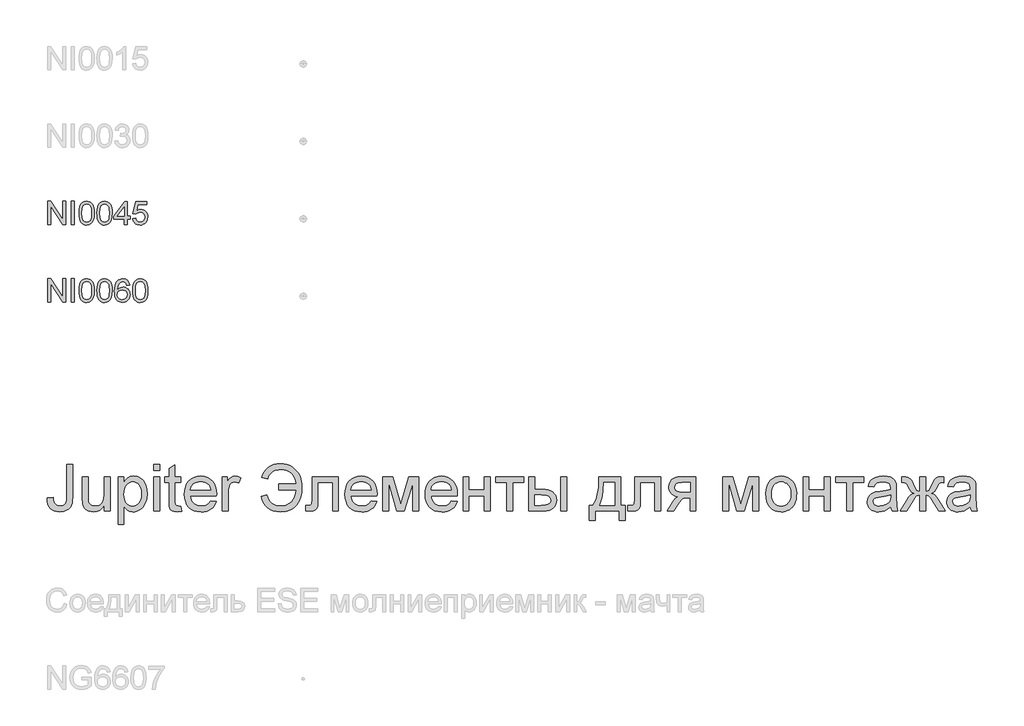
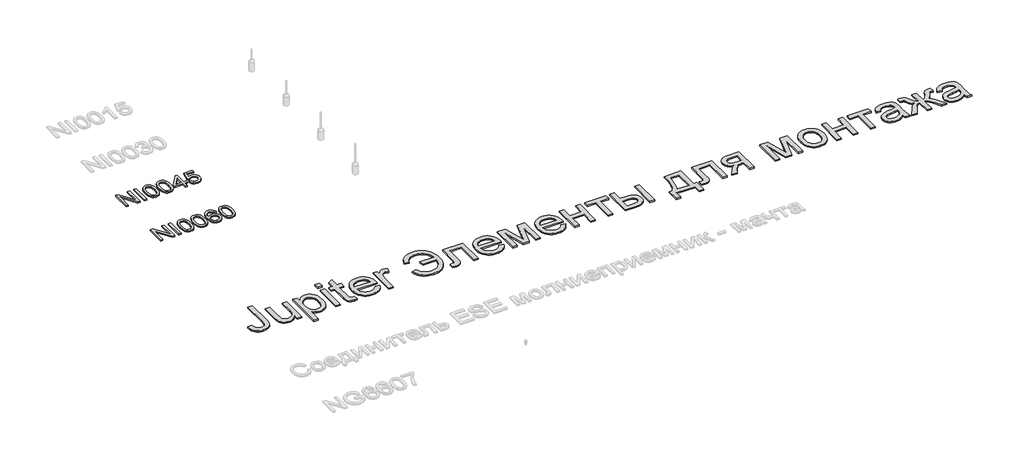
# One storey, part 11 of 124: 3 proxies.
"""IFC4 building model written with IfcOpenShell, lengths in millimetres."""

from ifc_helpers import new_model, si_unit, origin, origin_with_axes, place, context, project, spatial, polyline, outline, extrude, element, save

model = new_model("IFC4")

# Units and contexts
model_context = context("Model", 3, world=origin())
ifc_project = project(units=[si_unit("LENGTHUNIT", "METRE", prefix="MILLI")], contexts=[model_context])

# Site, building, storey
site = spatial("IfcSite", under=ifc_project)
building = spatial("IfcBuilding", under=site)
storey = spatial("IfcBuildingStorey", under=building, Name="Этаж 01", Elevation=0.0)

# Proxies
placement = place(None, origin())
element("IfcBuildingElementProxy", 1, Name="600 мм Arial", ObjectType="600 мм Arial", at=placement, inside=storey, context=model_context, shape_type="SweptSolid", body=[
    extrude(outline(polyline([(25395.1131782, -126079.6474361), (25470.4554108, -126069.9353514), (25473.1133582, -126099.8901429), (25478.2912973, -126124.7129805), (25485.989228, -126144.4038643), (25496.2071504, -126158.9627943), (25508.7887147, -126169.4566282), (25523.5775709, -126176.9522238), (25540.573719, -126181.4495812), (25559.7771592, -126182.9487003), (25587.6074321, -126179.5457919), (25611.3542149, -126169.3370665), (25629.6747383, -126153.2606233), (25641.2262329, -126132.2545614), (25647.3514681, -126101.8491145), (25649.3932132, -126057.5745164), (25649.3932132, -125646.135293), (25724.7354458, -125646.135293), (25724.7354458, -126056.2501412), (25720.1921032, -126123.333423), (25714.5129249, -126150.4601217), (25706.5620753, -126173.3101921), (25696.1418178, -126192.7941422), (25683.0544158, -126209.8224801), (25667.2998693, -126224.3952056), (25648.8781784, -126236.5123188), (25605.9647437, -126252.8462794), (25556.245492, -126258.290933), (25519.1170017, -126255.4812342), (25486.6054304, -126247.052138), (25458.7107781, -126233.0036443), (25435.4330448, -126213.3357532), (25417.1860979, -126188.1220409), (25404.3838044, -126157.436084), (25397.0261645, -126121.2778824), (25395.1131782, -126079.6474361)])), origin_with_axes(), (0.0, 0.0, 1.0), 20.0),
    extrude(outline(polyline([(26129.6999461, -126248.8731539), (26129.6999461, -126172.7951573), (26102.4398903, -126210.1995591), (26070.6916741, -126236.916989), (26034.4552976, -126252.947447), (25993.7307607, -126258.290933), (25957.0345317, -126254.5385366), (25922.8766884, -126243.2813476), (25894.218681, -126226.3587758), (25874.0219595, -126205.6102313), (25860.4287198, -126180.4103146), (25851.5811578, -126150.1336264), (25847.1665738, -126080.0888945), (25847.1665738, -125806.2375373), (25922.5088064, -125806.2375373), (25922.5088064, -126044.6250702), (25923.6492406, -126092.3025767), (25927.0705432, -126121.4388308), (25938.0518207, -126147.0618117), (25956.8689848, -126166.5411634), (25982.2712366, -126178.8468161), (26013.0077773, -126182.9487003), (26045.5101515, -126178.7548456), (26075.9155984, -126166.1732814), (26100.9867564, -126146.3628359), (26117.4862639, -126120.4823376), (26126.6465256, -126085.0369073), (26129.6999461, -126036.5316663), (26129.6999461, -125806.2375373), (26205.0421787, -125806.2375373), (26205.0421787, -126248.8731539), (26129.6999461, -126248.8731539)])), origin_with_axes(), (0.0, 0.0, 1.0), 20.0),
    extrude(outline(polyline([(26308.6377486, -126418.3931773), (26308.6377486, -125806.2375373), (26383.9799812, -125806.2375373), (26383.9799812, -125880.1082419), (26408.5544985, -125843.6695303), (26436.0720717, -125817.6418791), (26468.1513817, -125802.0252884), (26506.4111092, -125796.8197582), (26532.6870807, -125798.6407741), (26557.3627655, -125804.1038217), (26580.4381637, -125813.2089011), (26601.9132751, -125825.9560122), (26621.3190504, -125842.0140613), (26638.1864399, -125861.0519546), (26652.5154436, -125883.069692), (26664.3060615, -125908.0672736), (26680.0881991, -125963.5806666), (26685.3489116, -126024.1708312), (26679.4076174, -126088.6053627), (26671.9809996, -126118.2704471), (26661.5837348, -126146.2340772), (26648.358377, -126171.7650877), (26632.4474807, -126194.132313), (26613.8510459, -126213.3357532), (26592.5690725, -126229.3754081), (26569.6454256, -126242.0259503), (26546.1239706, -126251.0620518), (26522.0047073, -126256.4837127), (26497.2876357, -126258.290933), (26462.6515459, -126253.4532847), (26431.7310642, -126238.94034), (26405.2619546, -126217.0329672), (26383.9799812, -126190.0120347), (26383.9799812, -126418.3931773), (26308.6377486, -126418.3931773)]), holes=[polyline([(26383.9799812, -126031.0870127), (26386.0171277, -126067.3969657), (26392.1285674, -126098.6301471), (26402.3143001, -126124.7865569), (26416.574326, -126145.8661952), (26433.7406196, -126162.0897912), (26452.6451556, -126173.6780741), (26473.287934, -126180.6310438), (26495.6689549, -126182.9487003), (26518.3718726, -126180.5482703), (26539.3917301, -126173.3469803), (26558.7285274, -126161.3448302), (26576.3822647, -126144.5418201), (26591.092946, -126122.6988266), (26601.6005754, -126095.5767265), (26607.9051531, -126063.1755198), (26610.006679, -126025.4952064), (26607.9557369, -125989.4979532), (26601.8029105, -125958.3199541), (26591.5481999, -125931.9612091), (26577.1916051, -125910.4217183), (26559.9839247, -125893.6830875), (26541.1759577, -125881.7269227), (26520.767704, -125874.5532238), (26498.7591637, -125872.1619908), (26476.8196012, -125874.7049751), (26456.1768227, -125882.333928), (26436.8308283, -125895.0488494), (26418.7816179, -125912.8497395), (26403.5559019, -125935.4974748), (26392.6803904, -125962.7529321), (26386.1550835, -125994.6161114), (26383.9799812, -126031.0870127)])]), origin_with_axes(), (0.0, 0.0, 1.0), 20.0),
    extrude(outline(polyline([(26770.1089233, -125721.4775256), (26770.1089233, -125646.135293), (26845.4511559, -125646.135293), (26845.4511559, -125721.4775256), (26770.1089233, -125721.4775256)])), origin_with_axes(), (0.0, 0.0, 1.0), 20.0),
    extrude(outline(polyline([(26770.1089233, -126248.8731539), (26770.1089233, -125806.2375373), (26845.4511559, -125806.2375373), (26845.4511559, -126248.8731539), (26770.1089233, -126248.8731539)])), origin_with_axes(), (0.0, 0.0, 1.0), 20.0),
    extrude(outline(polyline([(27118.5667492, -126186.0389091), (27127.9845282, -126251.0804459), (27071.6250066, -126258.290933), (27035.4622064, -126255.163936), (27008.4964562, -126245.7829451), (26989.4401689, -126231.3251827), (26977.0057574, -126212.9678712), (26970.1631523, -126181.4403842), (26967.8822839, -126127.4720955), (26967.8822839, -125881.5797699), (26911.3756095, -125881.5797699), (26911.3756095, -125806.2375373), (26967.8822839, -125806.2375373), (26967.8822839, -125698.6688419), (27043.2245165, -125654.3758497), (27043.2245165, -125806.2375373), (27118.5667492, -125806.2375373), (27118.5667492, -125881.5797699), (27043.2245165, -125881.5797699), (27043.2245165, -126125.2648035), (27047.1976421, -126164.1131422), (27060.0735119, -126177.8719288), (27070.9444249, -126181.6795075), (27085.7516752, -126182.9487003), (27118.5667492, -126186.0389091)])), origin_with_axes(), (0.0, 0.0, 1.0), 20.0),
    extrude(outline(polyline([(27503.8127745, -126117.0242468), (27577.6834791, -126126.4420259), (27566.3573122, -126156.0289354), (27551.0672168, -126182.1025718), (27531.8131929, -126204.6629351), (27508.5952404, -126223.7100254), (27481.6524828, -126238.8391725), (27451.2240433, -126249.6457061), (27417.3099219, -126256.1296262), (27379.9101185, -126258.290933), (27333.161514, -126254.5615292), (27291.5080751, -126243.3733181), (27254.9498018, -126224.7262994), (27223.4866942, -126198.6204733), (27198.18561, -126165.7824068), (27180.113407, -126126.9386666), (27169.2700851, -126082.0892528), (27165.6556445, -126031.2341655), (27169.3068733, -125978.6546314), (27180.2605598, -125932.310697), (27198.5167038, -125892.2023625), (27224.0753054, -125858.3296278), (27255.4556396, -125831.4190599), (27291.1769813, -125812.1972256), (27331.2393306, -125800.6641251), (27375.6426874, -125796.8197582), (27418.615903, -125800.654928), (27457.4780372, -125812.1604374), (27492.2290902, -125831.3362864), (27522.8690619, -125858.182475), (27547.880439, -125891.9816333), (27565.7457084, -125932.0163914), (27576.46487, -125978.2867494), (27580.0379239, -126030.7927071), (27579.5964655, -126051.0997933), (27240.9978772, -126051.0997933), (27245.3618773, -126081.1649493), (27254.0392939, -126107.4961031), (27267.0301268, -126130.0932547), (27284.3343762, -126148.956404), (27304.9955487, -126163.8280337), (27328.0571513, -126174.4506263), (27353.5191839, -126180.8241818), (27381.3816465, -126182.9487003), (27421.480784, -126179.012363), (27455.2523511, -126167.203351), (27482.696348, -126146.7859002), (27503.8127745, -126117.0242468)]), holes=[polyline([(27240.9978772, -125975.7575607), (27504.6956913, -125975.7575607), (27494.50536, -125935.9527288), (27485.7405715, -125920.2993499), (27474.5293677, -125907.4786624), (27453.9831583, -125892.0276186), (27430.6042575, -125880.9911587), (27404.3926653, -125874.3692828), (27375.3483818, -125872.1619908), (27348.8562796, -125873.9232259), (27324.5622724, -125879.206931), (27302.46636, -125888.0131063), (27282.5685426, -125900.3417517), (27265.8712986, -125915.62265), (27253.3771063, -125933.2855843), (27245.0859658, -125953.3305545), (27240.9978772, -125975.7575607)])]), origin_with_axes(), (0.0, 0.0, 1.0), 20.0),
    extrude(outline(polyline([(27655.3801565, -126248.8731539), (27655.3801565, -125806.2375373), (27721.3046101, -125806.2375373), (27721.3046101, -125871.7205324), (27745.6583981, -125833.7551105), (27768.0991998, -125811.3878852), (27790.6135779, -125800.46179), (27815.1880952, -125796.8197582), (27852.7120587, -125802.6322937), (27890.8246334, -125820.0699003), (27865.661505, -125887.6130346), (27839.1740013, -125876.0247518), (27812.6864977, -125872.1619908), (27790.1905137, -125875.877599), (27770.0857626, -125887.0244234), (27753.8437725, -125904.7563356), (27742.9360714, -125928.2272069), (27733.7758097, -125970.3129071), (27730.7223891, -126016.2245801), (27730.7223891, -126248.8731539), (27655.3801565, -126248.8731539)])), origin_with_axes(), (0.0, 0.0, 1.0), 20.0),
    extrude(outline(polyline([(28380.5491454, -125900.4153281), (28606.5758433, -125900.4153281), (28601.177175, -125859.3183107), (28589.9843653, -125822.7002566), (28572.9974141, -125790.5611658), (28550.2163216, -125762.9010383), (28522.0917431, -125740.6579731), (28489.074334, -125724.7700695), (28451.1640944, -125715.2373273), (28408.3610242, -125712.0597465), (28376.3943781, -125713.9727329), (28347.5225393, -125719.711692), (28321.7455077, -125729.2766239), (28299.0632835, -125742.6675285), (28279.4758665, -125759.8844059), (28262.9832568, -125780.927256), (28249.5854544, -125805.7960789), (28239.2824593, -125834.4908745), (28163.9402267, -125815.6553164), (28177.5150723, -125775.8688786), (28196.1666894, -125740.6809657), (28219.8950781, -125710.0915778), (28248.7002383, -125684.1007149), (28281.9475737, -125663.3705645), (28319.0024876, -125648.5633142), (28359.8649802, -125639.678964), (28404.5350515, -125636.7175139), (28447.1449836, -125639.4352422), (28486.683101, -125647.5884269), (28523.1494038, -125661.1770681), (28556.5438919, -125680.2011657), (28586.346932, -125703.4513078), (28612.0388909, -125729.7180823), (28633.6197684, -125759.0014891), (28651.0895647, -125791.3015283), (28664.5770383, -125826.006596), (28674.2109481, -125862.5050885), (28679.9912939, -125900.7970056), (28681.9180759, -125940.8823475), (28679.5728281, -126005.3214775), (28667.9753482, -126064.4355156), (28647.1256362, -126118.2244618), (28617.0236919, -126166.6883162), (28598.5215268, -126188.1576795), (28577.7430919, -126206.764461), (28554.6883871, -126222.5086608), (28529.3574125, -126235.3902788), (28501.750168, -126245.409315), (28471.8666537, -126252.5657694), (28405.2708155, -126258.290933), (28357.8968116, -126255.2007242), (28315.1029385, -126245.9300979), (28276.8891962, -126230.4790541), (28243.2555848, -126208.8475928), (28214.2021042, -126181.035714), (28189.7287545, -126147.0434176), (28169.8355356, -126106.8707037), (28154.5224476, -126060.5175724), (28229.8646802, -126041.6820142), (28240.8827459, -126074.7913938), (28255.3221143, -126103.4861894), (28273.1827851, -126127.7664011), (28294.4647585, -126147.6320288), (28319.1680345, -126163.0830726), (28347.2926131, -126174.1195325), (28378.8384941, -126180.7414084), (28413.8056778, -126182.9487003), (28453.2242336, -126179.4814125), (28488.9271812, -126169.0795491), (28520.9145207, -126151.7431101), (28549.186252, -126127.4720955), (28572.5835469, -126097.1862102), (28589.9475771, -126061.8051593), (28601.2783425, -126021.3289428), (28606.5758433, -125975.7575607), (28380.5491454, -125975.7575607), (28380.5491454, -125900.4153281)])), origin_with_axes(), (0.0, 0.0, 1.0), 20.0),
    extrude(outline(polyline([(28813.7669829, -125806.2375373), (29152.8070297, -125806.2375373), (29152.8070297, -126248.4316955), (29077.4647971, -126248.4316955), (29077.4647971, -125881.5797699), (28889.1092155, -125881.5797699), (28889.1092155, -126092.7440351), (28887.8400227, -126154.0331755), (28884.032444, -126190.1591875), (28874.5226944, -126212.2137131), (28856.1469888, -126231.2883945), (28828.2615335, -126244.476964), (28790.2225352, -126248.8731539), (28729.0069712, -126245.0471811), (28729.0069712, -126173.5309213), (28762.704962, -126173.5309213), (28783.1408068, -126172.372093), (28796.7708348, -126168.8956081), (28805.2873029, -126162.8991316), (28810.3824686, -126154.1803283), (28813.7669829, -126088.476604), (28813.7669829, -125806.2375373)])), origin_with_axes(), (0.0, 0.0, 1.0), 20.0),
    extrude(outline(polyline([(29575.7241713, -126117.0242468), (29649.594876, -126126.4420259), (29638.268709, -126156.0289354), (29622.9786136, -126182.1025718), (29603.7245897, -126204.6629351), (29580.5066373, -126223.7100254), (29553.5638797, -126238.8391725), (29523.1354401, -126249.6457061), (29489.2213187, -126256.1296262), (29451.8215154, -126258.290933), (29405.0729108, -126254.5615292), (29363.4194719, -126243.3733181), (29326.8611987, -126224.7262994), (29295.398091, -126198.6204733), (29270.0970068, -126165.7824068), (29252.0248038, -126126.9386666), (29241.181482, -126082.0892528), (29237.5670414, -126031.2341655), (29241.2182702, -125978.6546314), (29252.1719566, -125932.310697), (29270.4281006, -125892.2023625), (29295.9867022, -125858.3296278), (29327.3670364, -125831.4190599), (29363.0883781, -125812.1972256), (29403.1507274, -125800.6641251), (29447.5540842, -125796.8197582), (29490.5272998, -125800.654928), (29529.3894341, -125812.1604374), (29564.140487, -125831.3362864), (29594.7804587, -125858.182475), (29619.7918358, -125891.9816333), (29637.6571052, -125932.0163914), (29648.3762669, -125978.2867494), (29651.9493207, -126030.7927071), (29651.5078624, -126051.0997933), (29312.909274, -126051.0997933), (29317.2732742, -126081.1649493), (29325.9506907, -126107.4961031), (29338.9415237, -126130.0932547), (29356.245773, -126148.956404), (29376.9069456, -126163.8280337), (29399.9685481, -126174.4506263), (29425.4305807, -126180.8241818), (29453.2930433, -126182.9487003), (29493.3921808, -126179.012363), (29527.163748, -126167.203351), (29554.6077448, -126146.7859002), (29575.7241713, -126117.0242468)]), holes=[polyline([(29312.909274, -125975.7575607), (29576.6070881, -125975.7575607), (29566.4167569, -125935.9527288), (29557.6519683, -125920.2993499), (29546.4407645, -125907.4786624), (29525.8945551, -125892.0276186), (29502.5156543, -125880.9911587), (29476.3040621, -125874.3692828), (29447.2597786, -125872.1619908), (29420.7676765, -125873.9232259), (29396.4736692, -125879.206931), (29374.3777569, -125888.0131063), (29354.4799394, -125900.3417517), (29337.7826954, -125915.62265), (29325.2885031, -125933.2855843), (29316.9973627, -125953.3305545), (29312.909274, -125975.7575607)])]), origin_with_axes(), (0.0, 0.0, 1.0), 20.0),
    extrude(outline(polyline([(29727.2915534, -125806.2375373), (29856.9331685, -125806.2375373), (29956.8499183, -126160.581475), (30064.5657665, -125806.2375373), (30188.7627281, -125806.2375373), (30188.7627281, -126248.8731539), (30113.4204955, -126248.8731539), (30113.4204955, -125892.469077), (30005.1160361, -126248.8731539), (29906.2293558, -126248.8731539), (29802.633786, -125875.3993524), (29802.633786, -126248.8731539), (29727.2915534, -126248.8731539), (29727.2915534, -125806.2375373)])), origin_with_axes(), (0.0, 0.0, 1.0), 20.0),
    extrude(outline(polyline([(30611.6798698, -126117.0242468), (30685.5505744, -126126.4420259), (30674.2244075, -126156.0289354), (30658.934312, -126182.1025718), (30639.6802881, -126204.6629351), (30616.4623357, -126223.7100254), (30589.5195781, -126238.8391725), (30559.0911386, -126249.6457061), (30525.1770171, -126256.1296262), (30487.7772138, -126258.290933), (30441.0286092, -126254.5615292), (30399.3751703, -126243.3733181), (30362.8168971, -126224.7262994), (30331.3537894, -126198.6204733), (30306.0527052, -126165.7824068), (30287.9805022, -126126.9386666), (30277.1371804, -126082.0892528), (30273.5227398, -126031.2341655), (30277.1739686, -125978.6546314), (30288.127655, -125932.310697), (30306.383799, -125892.2023625), (30331.9424006, -125858.3296278), (30363.3227348, -125831.4190599), (30399.0440766, -125812.1972256), (30439.1064258, -125800.6641251), (30483.5097826, -125796.8197582), (30526.4829982, -125800.654928), (30565.3451325, -125812.1604374), (30600.0961854, -125831.3362864), (30630.7361571, -125858.182475), (30655.7475343, -125891.9816333), (30673.6128037, -125932.0163914), (30684.3319653, -125978.2867494), (30687.9050192, -126030.7927071), (30687.4635608, -126051.0997933), (30348.8649724, -126051.0997933), (30353.2289726, -126081.1649493), (30361.9063891, -126107.4961031), (30374.8972221, -126130.0932547), (30392.2014714, -126148.956404), (30412.862644, -126163.8280337), (30435.9242466, -126174.4506263), (30461.3862792, -126180.8241818), (30489.2487418, -126182.9487003), (30529.3478792, -126179.012363), (30563.1194464, -126167.203351), (30590.5634432, -126146.7859002), (30611.6798698, -126117.0242468)]), holes=[polyline([(30348.8649724, -125975.7575607), (30612.5627866, -125975.7575607), (30602.3724553, -125935.9527288), (30593.6076667, -125920.2993499), (30582.3964629, -125907.4786624), (30561.8502535, -125892.0276186), (30538.4713527, -125880.9911587), (30512.2597606, -125874.3692828), (30483.215477, -125872.1619908), (30456.7233749, -125873.9232259), (30432.4293676, -125879.206931), (30410.3334553, -125888.0131063), (30390.4356379, -125900.3417517), (30373.7383938, -125915.62265), (30361.2442015, -125933.2855843), (30352.9530611, -125953.3305545), (30348.8649724, -125975.7575607)])]), origin_with_axes(), (0.0, 0.0, 1.0), 20.0),
    extrude(outline(polyline([(30763.2472518, -125806.2375373), (30838.5894844, -125806.2375373), (30838.5894844, -125975.7575607), (31036.362845, -125975.7575607), (31036.362845, -125806.2375373), (31111.7050776, -125806.2375373), (31111.7050776, -126248.8731539), (31036.362845, -126248.8731539), (31036.362845, -126051.0997933), (30838.5894844, -126051.0997933), (30838.5894844, -126248.8731539), (30763.2472518, -126248.8731539), (30763.2472518, -125806.2375373)])), origin_with_axes(), (0.0, 0.0, 1.0), 20.0),
    extrude(outline(polyline([(31187.0473102, -125806.2375373), (31544.9229151, -125806.2375373), (31544.9229151, -125881.5797699), (31403.656229, -125881.5797699), (31403.656229, -126248.8731539), (31328.3139964, -126248.8731539), (31328.3139964, -125881.5797699), (31187.0473102, -125881.5797699), (31187.0473102, -125806.2375373)])), origin_with_axes(), (0.0, 0.0, 1.0), 20.0),
    extrude(outline(polyline([(32025.229648, -125806.2375373), (32100.5718806, -125806.2375373), (32100.5718806, -126248.8731539), (32025.229648, -126248.8731539), (32025.229648, -125806.2375373)])), origin_with_axes(), (0.0, 0.0, 1.0), 20.0),
    extrude(outline(polyline([(31610.8473687, -125806.2375373), (31686.1896013, -125806.2375373), (31686.1896013, -125966.3397816), (31779.3373225, -125966.3397816), (31822.2001734, -125968.6988249), (31859.8482971, -125975.7759548), (31892.2816935, -125987.5711712), (31919.5003626, -126004.0844743), (31941.0352549, -126024.7456468), (31956.4173208, -126048.9844718), (31965.6465604, -126076.8009492), (31968.7229736, -126108.1950789), (31966.1432011, -126136.2046943), (31958.4038836, -126162.1081853), (31945.5050211, -126185.9055519), (31927.4466137, -126207.596794), (31903.7228235, -126225.6552015), (31873.8278129, -126238.5540639), (31837.7615818, -126246.2933814), (31795.5241302, -126248.8731539), (31610.8473687, -126248.8731539), (31610.8473687, -125806.2375373)]), holes=[polyline([(31686.1896013, -126173.5309213), (31763.5919731, -126173.5309213), (31823.5935265, -126169.5761898), (31846.0619193, -126164.6327755), (31863.5087229, -126157.7119955), (31876.5777308, -126148.6942881), (31885.9127365, -126137.4600916), (31891.5137398, -126124.0094062), (31893.380741, -126108.3422317), (31887.8441169, -126083.7309263), (31871.2342448, -126061.9891003), (31856.8178692, -126053.1047502), (31835.7152382, -126046.7587857), (31773.4512105, -126041.6820142), (31686.1896013, -126041.6820142), (31686.1896013, -126173.5309213)])]), origin_with_axes(), (0.0, 0.0, 1.0), 20.0),
    extrude(outline(polyline([(32514.95416, -125806.2375373), (32797.4875323, -125806.2375373), (32797.4875323, -126173.5309213), (32853.9942068, -126173.5309213), (32853.9942068, -126371.3042819), (32778.6519742, -126371.3042819), (32778.6519742, -126248.8731539), (32467.8652646, -126248.8731539), (32467.8652646, -126371.3042819), (32392.523032, -126371.3042819), (32392.523032, -126173.5309213), (32439.6119274, -126173.5309213), (32458.0106257, -126145.0982416), (32473.843347, -126111.6715638), (32487.1100915, -126073.2508879), (32497.810859, -126029.836214), (32505.9456497, -125981.4275419), (32511.5144634, -125928.0248718), (32514.95416, -125806.2375373)]), holes=[polyline([(32580.8786135, -125881.5797699), (32574.698196, -125973.8261802), (32563.2202778, -126053.2335089), (32546.4448588, -126119.8017559), (32524.3719391, -126173.5309213), (32722.1452997, -126173.5309213), (32722.1452997, -125881.5797699), (32580.8786135, -125881.5797699)])]), origin_with_axes(), (0.0, 0.0, 1.0), 20.0),
    extrude(outline(polyline([(32976.4253348, -125806.2375373), (33315.4653815, -125806.2375373), (33315.4653815, -126248.4316955), (33240.1231489, -126248.4316955), (33240.1231489, -125881.5797699), (33051.7675674, -125881.5797699), (33051.7675674, -126092.7440351), (33050.4983745, -126154.0331755), (33046.6907958, -126190.1591875), (33037.1810463, -126212.2137131), (33018.8053406, -126231.2883945), (32990.9198854, -126244.476964), (32952.8808871, -126248.8731539), (32891.6653231, -126245.0471811), (32891.6653231, -126173.5309213), (32925.3633138, -126173.5309213), (32945.7991587, -126172.372093), (32959.4291866, -126168.8956081), (32967.9456548, -126162.8991316), (32973.0408204, -126154.1803283), (32976.4253348, -126088.476604), (32976.4253348, -125806.2375373)])), origin_with_axes(), (0.0, 0.0, 1.0), 20.0),
    extrude(outline(polyline([(33767.5187772, -125806.2375373), (33767.5187772, -126248.8731539), (33692.1765446, -126248.8731539), (33692.1765446, -126079.3531305), (33651.1209139, -126079.3531305), (33618.3794163, -126081.7443635), (33595.2028506, -126088.9180624), (33572.8724135, -126109.7769715), (33542.6693017, -126153.2238351), (33482.6309601, -126248.8731539), (33395.5165037, -126248.8731539), (33471.1530419, -126127.9135539), (33504.556727, -126084.5034784), (33520.2652882, -126071.8483378), (33535.3116618, -126065.2264619), (33507.6469358, -126059.1104237), (33483.8081825, -126049.4443243), (33463.795402, -126036.2281636), (33447.6085942, -126019.4619417), (33435.1190004, -126000.2217133), (33426.1978621, -125979.5835334), (33420.845179, -125957.5474019), (33419.0609514, -125934.1133188), (33421.4981696, -125906.9820217), (33428.8098242, -125882.5362631), (33440.9959153, -125860.7760431), (33458.0564428, -125841.7013616), (33479.7338894, -125826.1859385), (33505.7707376, -125815.1034934), (33536.1669875, -125808.4540263), (33570.922639, -125806.2375373), (33767.5187772, -125806.2375373)]), holes=[polyline([(33692.1765446, -125881.5797699), (33592.8484059, -125881.5797699), (33541.5472616, -125885.9391715), (33524.2154212, -125891.3884236), (33512.4294017, -125899.0173765), (33498.9097384, -125917.9449051), (33494.403184, -125939.8522779), (33496.0632515, -125955.3079203), (33501.043454, -125968.5654677), (33509.3437915, -125979.6249201), (33520.964264, -125988.4862777), (33536.8061824, -125995.278299), (33557.7708576, -126000.1297428), (33615.0684784, -126004.0108979), (33692.1765446, -126004.0108979), (33692.1765446, -125881.5797699)])]), origin_with_axes(), (0.0, 0.0, 1.0), 20.0),
    extrude(outline(polyline([(34115.976603, -125806.2375373), (34245.6182181, -125806.2375373), (34345.534968, -126160.581475), (34453.2508162, -125806.2375373), (34577.4477778, -125806.2375373), (34577.4477778, -126248.8731539), (34502.1055452, -126248.8731539), (34502.1055452, -125892.469077), (34393.8010858, -126248.8731539), (34294.9144055, -126248.8731539), (34191.3188356, -125875.3993524), (34191.3188356, -126248.8731539), (34115.976603, -126248.8731539), (34115.976603, -125806.2375373)])), origin_with_axes(), (0.0, 0.0, 1.0), 20.0),
    extrude(outline(polyline([(34671.6255685, -126027.5553456), (34675.6998616, -125970.2301337), (34687.9227409, -125920.8327788), (34708.2942064, -125879.3632809), (34736.8142581, -125845.82164), (34765.5274478, -125824.3833167), (34797.2204817, -125809.0702287), (34831.8933597, -125799.8823758), (34869.5460819, -125796.8197582), (34911.1121489, -125800.5491619), (34948.6958932, -125811.7373731), (34982.2973149, -125830.3843917), (35011.9164141, -125856.4902178), (35036.0908597, -125889.1719346), (35053.3583208, -125927.5466252), (35063.7187975, -125971.6142897), (35067.1722897, -126021.3749281), (35065.6455795, -126061.7039918), (35061.0654486, -126097.4897129), (35053.4318972, -126128.7320913), (35042.7449253, -126155.4311271), (35029.13789, -126178.4927297), (35012.7441486, -126198.8228084), (34993.563701, -126216.4213634), (34971.5965474, -126231.2883945), (34947.6980133, -126243.1020051), (34922.7234243, -126251.5402984), (34896.6727806, -126256.6032743), (34869.5460819, -126258.290933), (34827.3730097, -126254.5753248), (34789.4397775, -126243.4285004), (34755.7463853, -126224.8504596), (34726.292833, -126198.8412025), (34702.3759048, -126165.8421876), (34685.2923847, -126126.2948731), (34675.0422726, -126080.1992591), (34671.6255685, -126027.5553456)]), holes=[polyline([(34746.9678011, -126027.4081928), (34749.147502, -126063.9526705), (34755.6866044, -126095.5951206), (34766.5851085, -126122.3355431), (34781.8430143, -126144.1739381), (34800.4026609, -126161.1378966), (34821.2063878, -126173.2550098), (34844.2541948, -126180.5252777), (34869.5460819, -126182.9487003), (34894.7092104, -126180.5114821), (34917.6650469, -126173.1998275), (34938.4135914, -126161.0137364), (34956.954844, -126143.9532089), (34972.2127497, -126121.8986833), (34983.1112538, -126094.7305979), (34989.6503563, -126062.4489528), (34991.8300571, -126025.053748), (34989.6365607, -125989.6680986), (34983.0560716, -125958.853383), (34972.0885896, -125932.6096012), (34956.7341148, -125910.9367531), (34938.1238844, -125893.9727946), (34917.3891354, -125881.8556814), (34894.5298679, -125874.5854135), (34869.5460819, -125872.1619908), (34844.2541948, -125874.5762164), (34821.2063878, -125881.8188932), (34800.4026609, -125893.8900212), (34781.8430143, -125910.7896003), (34766.5851085, -125932.5636159), (34755.6866044, -125959.2580532), (34749.147502, -125990.8729121), (34746.9678011, -126027.4081928)])]), origin_with_axes(), (0.0, 0.0, 1.0), 20.0),
    extrude(outline(polyline([(35151.9323014, -125806.2375373), (35227.274534, -125806.2375373), (35227.274534, -125975.7575607), (35425.0478947, -125975.7575607), (35425.0478947, -125806.2375373), (35500.3901273, -125806.2375373), (35500.3901273, -126248.8731539), (35425.0478947, -126248.8731539), (35425.0478947, -126051.0997933), (35227.274534, -126051.0997933), (35227.274534, -126248.8731539), (35151.9323014, -126248.8731539), (35151.9323014, -125806.2375373)])), origin_with_axes(), (0.0, 0.0, 1.0), 20.0),
    extrude(outline(polyline([(35575.7323599, -125806.2375373), (35933.6079648, -125806.2375373), (35933.6079648, -125881.5797699), (35792.3412786, -125881.5797699), (35792.3412786, -126248.8731539), (35716.999046, -126248.8731539), (35716.999046, -125881.5797699), (35575.7323599, -125881.5797699), (35575.7323599, -125806.2375373)])), origin_with_axes(), (0.0, 0.0, 1.0), 20.0),
    extrude(outline(polyline([(36282.0657906, -126192.3664794), (36246.0685374, -126223.2317788), (36209.0044264, -126243.4285004), (36170.027329, -126254.5753248), (36128.2911166, -126258.290933), (36094.7448772, -126256.0560498), (36065.3281132, -126249.3514005), (36040.0408245, -126238.1769849), (36018.8830113, -126222.532803), (36002.1765702, -126203.4121363), (35990.2433979, -126181.8082662), (35983.0834946, -126157.7211925), (35980.6968602, -126131.1509154), (35984.3021037, -126099.917734), (35995.1178344, -126071.5540322), (36011.8012829, -126047.2738205), (36033.0096799, -126028.2911096), (36057.9336851, -126013.9437118), (36085.763958, -126003.5694395), (36150.9526475, -125992.2386741), (36227.9871373, -125980.3192974), (36281.6243322, -125966.3397816), (36282.0657906, -125949.5643626), (36276.8786545, -125915.9399483), (36270.3947343, -125903.4871427), (36261.3172461, -125893.9406049), (36245.627079, -125884.4124613), (36226.5156093, -125877.6066444), (36178.0287624, -125872.1619908), (36133.147159, -125875.7856285), (36101.803613, -125886.6565414), (36080.4296691, -125906.7612925), (36065.4568719, -125938.0864444), (35990.1146392, -125928.6686653), (36003.1928442, -125887.4658818), (36022.708984, -125855.0922662), (36050.4840747, -125830.333808), (36088.339132, -125811.9764964), (36134.6370811, -125800.6089428), (36187.7408471, -125796.8197582), (36238.6741093, -125800.1674844), (36279.0491583, -125810.2106628), (36309.4913934, -125825.3122187), (36330.626214, -125843.8350772), (36344.642518, -125866.7357314), (36353.7292033, -125894.9706745), (36357.4080232, -125960.8951281), (36357.4080232, -126054.6314604), (36361.233996, -126185.5238743), (36366.8993787, -126217.8790958), (36376.2435814, -126248.8731539), (36300.9013488, -126248.8731539), (36288.8348193, -126222.6799558), (36282.0657906, -126192.3664794)]), holes=[polyline([(36282.0657906, -126041.6820142), (36231.4452281, -126054.2267902), (36160.5175794, -126064.7850035), (36095.6967719, -126076.9986857), (36078.8293824, -126085.349607), (36066.3397886, -126096.8643135), (36058.6142667, -126110.6598883), (36056.0390928, -126125.8534147), (36061.6492932, -126148.2574282), (36078.4798945, -126166.6147398), (36106.1630146, -126178.8652102), (36144.3307716, -126182.9487003), (36184.7977911, -126178.4421459), (36220.555921, -126164.9224826), (36249.5450222, -126145.0016725), (36269.7049556, -126121.291678), (36278.6444881, -126096.8643135), (36281.6243322, -126063.0191699), (36282.0657906, -126041.6820142)])]), origin_with_axes(), (0.0, 0.0, 1.0), 20.0),
    extrude(outline(polyline([(36734.1191863, -125806.2375373), (36734.1191863, -125994.5931188), (36760.6986604, -125990.7119638), (36778.0442965, -125979.0684986), (36794.8013214, -125951.1646493), (36819.614962, -125898.5023417), (36845.5506426, -125848.2864493), (36857.6631573, -125831.8697153), (36869.2054549, -125821.2471227), (36897.9370387, -125809.9899336), (36939.6916452, -125806.2375373), (36969.5636632, -125806.2375373), (36969.5636632, -125882.0212283), (36948.8151187, -125881.5797699), (36923.9462958, -125883.5295445), (36909.96678, -125889.3788682), (36898.8199555, -125905.7128288), (36883.0378179, -125938.2335972), (36866.7590397, -125970.9750947), (36851.7678484, -125991.7972157), (36833.4289309, -126006.0342489), (36807.1069741, -126019.0204833), (36831.8930236, -126029.6246818), (36856.3663733, -126048.3406783), (36880.5270233, -126075.1684728), (36904.3749737, -126110.1080653), (36988.3992214, -126248.8731539), (36902.0205289, -126248.8731539), (36819.3206564, -126112.0210517), (36796.7143078, -126076.0973749), (36777.1613797, -126055.1464952), (36757.3877225, -126045.0481345), (36734.1191863, -126041.6820142), (36734.1191863, -126248.8731539), (36658.7769537, -126248.8731539), (36658.7769537, -126041.6820142), (36635.6923585, -126044.9745581), (36615.881913, -126054.8521896), (36596.1818322, -126075.6559165), (36573.4283308, -126111.7267461), (36490.7284583, -126248.8731539), (36404.4969186, -126248.8731539), (36488.2268607, -126110.1080653), (36512.2771462, -126075.1684728), (36536.6033431, -126048.3406783), (36561.2054515, -126029.6246818), (36586.0834714, -126019.0204833), (36557.3150994, -126004.5995091), (36538.7002705, -125989.0013125), (36521.7776987, -125961.5941039), (36498.0860982, -125911.7460935), (36488.4843781, -125895.1546155), (36478.2204704, -125886.2886594), (36464.6456248, -125882.4258985), (36445.6997021, -125881.1383115), (36423.3324768, -125881.5797699), (36423.3324768, -125806.2375373), (36434.6632422, -125806.2375373), (36474.6520151, -125807.4147597), (36500.7348486, -125810.9464268), (36518.8714309, -125818.3040667), (36535.0214505, -125830.9592074), (36552.2015397, -125855.4969364), (36573.4283308, -125898.5023417), (36597.984454, -125950.5208558), (36614.5575379, -125978.5534638), (36631.9031739, -125990.5832051), (36658.7769537, -125994.5931188), (36658.7769537, -125806.2375373), (36734.1191863, -125806.2375373)])), origin_with_axes(), (0.0, 0.0, 1.0), 20.0),
    extrude(outline(polyline([(37308.60371, -126192.3664794), (37272.6064567, -126223.2317788), (37235.5423457, -126243.4285004), (37196.5652483, -126254.5753248), (37154.829036, -126258.290933), (37121.2827965, -126256.0560498), (37091.8660325, -126249.3514005), (37066.5787439, -126238.1769849), (37045.4209306, -126222.532803), (37028.7144895, -126203.4121363), (37016.7813173, -126181.8082662), (37009.621414, -126157.7211925), (37007.2347795, -126131.1509154), (37010.8400231, -126099.917734), (37021.6557537, -126071.5540322), (37038.3392022, -126047.2738205), (37059.5475992, -126028.2911096), (37084.4716044, -126013.9437118), (37112.3018773, -126003.5694395), (37177.4905669, -125992.2386741), (37254.5250567, -125980.3192974), (37308.1622516, -125966.3397816), (37308.60371, -125949.5643626), (37303.4165738, -125915.9399483), (37296.9326537, -125903.4871427), (37287.8551654, -125893.9406049), (37272.1649983, -125884.4124613), (37253.0535287, -125877.6066444), (37204.5666817, -125872.1619908), (37159.6850783, -125875.7856285), (37128.3415323, -125886.6565414), (37106.9675884, -125906.7612925), (37091.9947912, -125938.0864444), (37016.6525586, -125928.6686653), (37029.7307635, -125887.4658818), (37049.2469034, -125855.0922662), (37077.021994, -125830.333808), (37114.8770513, -125811.9764964), (37161.1750004, -125800.6089428), (37214.2787664, -125796.8197582), (37265.2120286, -125800.1674844), (37305.5870776, -125810.2106628), (37336.0293127, -125825.3122187), (37357.1641333, -125843.8350772), (37371.1804373, -125866.7357314), (37380.2671226, -125894.9706745), (37383.9459426, -125960.8951281), (37383.9459426, -126054.6314604), (37387.7719153, -126185.5238743), (37393.437298, -126217.8790958), (37402.7815007, -126248.8731539), (37327.4392681, -126248.8731539), (37315.3727387, -126222.6799558), (37308.60371, -126192.3664794)]), holes=[polyline([(37308.60371, -126041.6820142), (37257.9831474, -126054.2267902), (37187.0554988, -126064.7850035), (37122.2346912, -126076.9986857), (37105.3673017, -126085.349607), (37092.877708, -126096.8643135), (37085.1521861, -126110.6598883), (37082.5770121, -126125.8534147), (37088.1872126, -126148.2574282), (37105.0178138, -126166.6147398), (37132.700934, -126178.8652102), (37170.868691, -126182.9487003), (37211.3357104, -126178.4421459), (37247.0938404, -126164.9224826), (37276.0829416, -126145.0016725), (37296.2428749, -126121.291678), (37305.1824074, -126096.8643135), (37308.1622516, -126063.0191699), (37308.60371, -126041.6820142)])]), origin_with_axes(), (0.0, 0.0, 1.0), 20.0),
])
element("IfcBuildingElementProxy", 2, Name="300", ObjectType="300", at=placement, inside=storey, context=model_context, shape_type="SweptSolid", body=[
    extrude(outline(polyline([(25399.8220677, -122548.8731539), (25399.8220677, -122247.5042234), (25440.1419344, -122247.5042234), (25597.5954283, -122486.2596383), (25597.5954283, -122247.5042234), (25635.2665446, -122247.5042234), (25635.2665446, -122548.8731539), (25594.9466779, -122548.8731539), (25437.493184, -122310.0441626), (25437.493184, -122548.8731539), (25399.8220677, -122548.8731539)])), origin_with_axes(), (0.0, 0.0, 1.0), 20.0),
    extrude(outline(polyline([(25705.8998877, -122548.8731539), (25705.8998877, -122247.5042234), (25743.571004, -122247.5042234), (25743.571004, -122548.8731539), (25705.8998877, -122548.8731539)])), origin_with_axes(), (0.0, 0.0, 1.0), 20.0),
    extrude(outline(polyline([(25804.786568, -122400.6167098), (25807.55488, -122352.3781832), (25815.859816, -122313.9069236), (25829.6186027, -122284.6143197), (25848.7484664, -122263.9117604), (25873.387363, -122251.6061077), (25903.6732483, -122247.5042234), (25926.8866022, -122249.9322446), (25947.6719349, -122257.2163081), (25965.0543592, -122269.0713054), (25978.0589877, -122285.2121279), (25987.881437, -122305.50082), (25995.7173235, -122329.7994258), (26000.8492773, -122360.6555281), (26002.5599286, -122400.6167098), (25999.8192077, -122448.579325), (25991.5970451, -122486.9586141), (25977.921032, -122516.2788091), (25958.8187594, -122537.0641418), (25934.1246804, -122549.452568), (25903.6732483, -122553.5820434), (25882.9247038, -122551.7886187), (25864.530604, -122546.4083445), (25848.490949, -122537.4412209), (25834.8057388, -122524.8872478), (25821.6723516, -122502.1935272), (25812.2913607, -122473.9171974), (25806.6627662, -122440.0582582), (25804.786568, -122400.6167098)]), holes=[polyline([(25842.4576843, -122400.5431334), (25846.8722682, -122459.7997258), (25852.3904982, -122480.0677245), (25860.1160201, -122494.0955248), (25879.834495, -122510.4570765), (25903.6732483, -122515.9109271), (25927.5120016, -122510.4386824), (25947.2304765, -122494.0219484), (25954.9559984, -122479.9711555), (25960.4742283, -122459.7077553), (25964.8888123, -122400.5431334), (25960.6213811, -122342.6201133), (25955.2870922, -122322.4187932), (25947.8190877, -122308.0575998), (25928.137401, -122290.8959048), (25903.2317899, -122285.1753397), (25879.650554, -122290.2153231), (25860.7046313, -122305.3352731), (25852.721592, -122320.9702579), (25847.019421, -122342.0498962), (25842.4576843, -122400.5431334)])]), origin_with_axes(), (0.0, 0.0, 1.0), 20.0),
    extrude(outline(polyline([(26035.5221554, -122400.6167098), (26038.2904674, -122352.3781832), (26046.5954034, -122313.9069236), (26060.35419, -122284.6143197), (26079.4840538, -122263.9117604), (26104.1229504, -122251.6061077), (26134.4088357, -122247.5042234), (26157.6221896, -122249.9322446), (26178.4075223, -122257.2163081), (26195.7899466, -122269.0713054), (26208.7945751, -122285.2121279), (26218.6170244, -122305.50082), (26226.4529109, -122329.7994258), (26231.5848647, -122360.6555281), (26233.295516, -122400.6167098), (26230.5547951, -122448.579325), (26222.3326325, -122486.9586141), (26208.6566193, -122516.2788091), (26189.5543467, -122537.0641418), (26164.8602678, -122549.452568), (26134.4088357, -122553.5820434), (26113.6602911, -122551.7886187), (26095.2661914, -122546.4083445), (26079.2265364, -122537.4412209), (26065.5413262, -122524.8872478), (26052.4079389, -122502.1935272), (26043.0269481, -122473.9171974), (26037.3983535, -122440.0582582), (26035.5221554, -122400.6167098)]), holes=[polyline([(26073.1932717, -122400.5431334), (26077.6078556, -122459.7997258), (26083.1260855, -122480.0677245), (26090.8516074, -122494.0955248), (26110.5700824, -122510.4570765), (26134.4088357, -122515.9109271), (26158.247589, -122510.4386824), (26177.9660639, -122494.0219484), (26185.6915858, -122479.9711555), (26191.2098157, -122459.7077553), (26195.6243997, -122400.5431334), (26191.3569685, -122342.6201133), (26186.0226796, -122322.4187932), (26178.5546751, -122308.0575998), (26158.8729883, -122290.8959048), (26133.9673773, -122285.1753397), (26110.3861414, -122290.2153231), (26091.4402186, -122305.3352731), (26083.4571793, -122320.9702579), (26077.7550084, -122342.0498962), (26073.1932717, -122400.5431334)])]), origin_with_axes(), (0.0, 0.0, 1.0), 20.0),
    extrude(outline(polyline([(26388.6888707, -122548.8731539), (26388.6888707, -122478.2398108), (26252.1310741, -122478.2398108), (26252.1310741, -122440.5686945), (26398.1066498, -122252.213113), (26426.359987, -122252.213113), (26426.359987, -122440.5686945), (26464.0311033, -122440.5686945), (26464.0311033, -122478.2398108), (26426.359987, -122478.2398108), (26426.359987, -122548.8731539), (26388.6888707, -122548.8731539)]), holes=[polyline([(26388.6888707, -122440.5686945), (26388.6888707, -122324.1708312), (26298.4842055, -122440.5686945), (26388.6888707, -122440.5686945)])]), origin_with_axes(), (0.0, 0.0, 1.0), 20.0),
    extrude(outline(polyline([(26496.9933301, -122468.8220317), (26534.6644464, -122464.1131422), (26541.5806279, -122486.7286879), (26553.6471574, -122502.9246927), (26570.8088524, -122512.6643685), (26593.0105309, -122515.9109271), (26620.0130693, -122511.3951756), (26640.246579, -122497.8479212), (26652.8833256, -122476.8326622), (26657.0955744, -122449.9128972), (26653.15004, -122424.5658277), (26641.3134368, -122405.1784466), (26621.4937943, -122392.8727938), (26593.599142, -122388.7709096), (26575.3246039, -122390.4079845), (26560.5265507, -122395.3192091), (26539.373336, -122412.3153573), (26501.7022196, -122407.6064677), (26534.6644464, -122252.213113), (26680.6400221, -122252.213113), (26680.6400221, -122289.8842293), (26565.1250756, -122289.8842293), (26549.0118442, -122372.8784074), (26575.9224122, -122356.5444468), (26604.1205671, -122351.0997933), (26622.4663824, -122352.7874519), (26639.317677, -122357.8504279), (26654.674451, -122366.2887212), (26668.5367045, -122378.1023317), (26680.0123234, -122392.5692912), (26688.2091942, -122408.9676311), (26693.1273166, -122427.2973515), (26694.7666907, -122447.5584524), (26688.8621847, -122485.2295687), (26681.4815522, -122502.0233818), (26671.1486666, -122517.4560315), (26655.4952877, -122533.2611617), (26637.2299467, -122544.5505404), (26616.3526434, -122551.3241677), (26592.8633781, -122553.5820434), (26555.8636464, -122547.7787049), (26540.1849756, -122540.5245319), (26526.3871015, -122530.3686895), (26514.906884, -122517.8170157), (26506.1811829, -122503.3753481), (26496.9933301, -122468.8220317)])), origin_with_axes(), (0.0, 0.0, 1.0), 20.0),
])
element("IfcBuildingElementProxy", 3, Name="300", ObjectType="300", at=placement, inside=storey, context=model_context, shape_type="SweptSolid", body=[
    extrude(outline(polyline([(25399.8220677, -123548.8731539), (25399.8220677, -123247.5042234), (25440.1419344, -123247.5042234), (25597.5954283, -123486.2596383), (25597.5954283, -123247.5042234), (25635.2665446, -123247.5042234), (25635.2665446, -123548.8731539), (25594.9466779, -123548.8731539), (25437.493184, -123310.0441626), (25437.493184, -123548.8731539), (25399.8220677, -123548.8731539)])), origin_with_axes(), (0.0, 0.0, 1.0), 20.0),
    extrude(outline(polyline([(25705.8998877, -123548.8731539), (25705.8998877, -123247.5042234), (25743.571004, -123247.5042234), (25743.571004, -123548.8731539), (25705.8998877, -123548.8731539)])), origin_with_axes(), (0.0, 0.0, 1.0), 20.0),
    extrude(outline(polyline([(25804.786568, -123400.6167098), (25807.55488, -123352.3781832), (25815.859816, -123313.9069236), (25829.6186027, -123284.6143197), (25848.7484664, -123263.9117604), (25873.387363, -123251.6061077), (25903.6732483, -123247.5042234), (25926.8866022, -123249.9322446), (25947.6719349, -123257.2163081), (25965.0543592, -123269.0713054), (25978.0589877, -123285.2121279), (25987.881437, -123305.50082), (25995.7173235, -123329.7994258), (26000.8492773, -123360.6555281), (26002.5599286, -123400.6167098), (25999.8192077, -123448.579325), (25991.5970451, -123486.9586141), (25977.921032, -123516.2788091), (25958.8187594, -123537.0641418), (25934.1246804, -123549.452568), (25903.6732483, -123553.5820434), (25882.9247038, -123551.7886187), (25864.530604, -123546.4083445), (25848.490949, -123537.4412209), (25834.8057388, -123524.8872478), (25821.6723516, -123502.1935272), (25812.2913607, -123473.9171974), (25806.6627662, -123440.0582582), (25804.786568, -123400.6167098)]), holes=[polyline([(25842.4576843, -123400.5431334), (25846.8722682, -123459.7997258), (25852.3904982, -123480.0677245), (25860.1160201, -123494.0955248), (25879.834495, -123510.4570765), (25903.6732483, -123515.9109271), (25927.5120016, -123510.4386824), (25947.2304765, -123494.0219484), (25954.9559984, -123479.9711555), (25960.4742283, -123459.7077553), (25964.8888123, -123400.5431334), (25960.6213811, -123342.6201133), (25955.2870922, -123322.4187932), (25947.8190877, -123308.0575998), (25928.137401, -123290.8959048), (25903.2317899, -123285.1753397), (25879.650554, -123290.2153231), (25860.7046313, -123305.3352731), (25852.721592, -123320.9702579), (25847.019421, -123342.0498962), (25842.4576843, -123400.5431334)])]), origin_with_axes(), (0.0, 0.0, 1.0), 20.0),
    extrude(outline(polyline([(26035.5221554, -123400.6167098), (26038.2904674, -123352.3781832), (26046.5954034, -123313.9069236), (26060.35419, -123284.6143197), (26079.4840538, -123263.9117604), (26104.1229504, -123251.6061077), (26134.4088357, -123247.5042234), (26157.6221896, -123249.9322446), (26178.4075223, -123257.2163081), (26195.7899466, -123269.0713054), (26208.7945751, -123285.2121279), (26218.6170244, -123305.50082), (26226.4529109, -123329.7994258), (26231.5848647, -123360.6555281), (26233.295516, -123400.6167098), (26230.5547951, -123448.579325), (26222.3326325, -123486.9586141), (26208.6566193, -123516.2788091), (26189.5543467, -123537.0641418), (26164.8602678, -123549.452568), (26134.4088357, -123553.5820434), (26113.6602911, -123551.7886187), (26095.2661914, -123546.4083445), (26079.2265364, -123537.4412209), (26065.5413262, -123524.8872478), (26052.4079389, -123502.1935272), (26043.0269481, -123473.9171974), (26037.3983535, -123440.0582582), (26035.5221554, -123400.6167098)]), holes=[polyline([(26073.1932717, -123400.5431334), (26077.6078556, -123459.7997258), (26083.1260855, -123480.0677245), (26090.8516074, -123494.0955248), (26110.5700824, -123510.4570765), (26134.4088357, -123515.9109271), (26158.247589, -123510.4386824), (26177.9660639, -123494.0219484), (26185.6915858, -123479.9711555), (26191.2098157, -123459.7077553), (26195.6243997, -123400.5431334), (26191.3569685, -123342.6201133), (26186.0226796, -123322.4187932), (26178.5546751, -123308.0575998), (26158.8729883, -123290.8959048), (26133.9673773, -123285.1753397), (26110.3861414, -123290.2153231), (26091.4402186, -123305.3352731), (26083.4571793, -123320.9702579), (26077.7550084, -123342.0498962), (26073.1932717, -123400.5431334)])]), origin_with_axes(), (0.0, 0.0, 1.0), 20.0),
    extrude(outline(polyline([(26459.3222138, -123327.5553456), (26421.6510975, -123332.2642351), (26415.5810446, -123313.5942239), (26407.3772761, -123300.8471127), (26390.2891574, -123289.093283), (26369.6325834, -123285.1753397), (26352.1214004, -123287.4562081), (26335.640287, -123294.2988132), (26321.4860273, -123308.7105904), (26309.9253356, -123328.548627), (26302.1170402, -123356.6088262), (26299.2199695, -123395.6870911), (26314.3307225, -123378.0563465), (26332.4397137, -123365.6311321), (26352.5352677, -123358.2642951), (26373.6057089, -123355.8086828), (26391.7055031, -123357.4871444), (26408.4073457, -123362.5225292), (26423.7112367, -123370.9148372), (26437.6171761, -123382.6640685), (26449.1732693, -123397.0712471), (26457.4276215, -123413.4373974), (26462.3802329, -123431.7625192), (26464.0311033, -123452.0466128), (26460.9225005, -123479.0215601), (26451.5966919, -123504.0283387), (26436.8262298, -123525.2367357), (26417.3836664, -123540.8165382), (26394.1519184, -123550.3906671), (26368.0139026, -123553.5820434), (26345.5570061, -123551.466722), (26325.2752118, -123545.1207575), (26307.1685199, -123534.5441502), (26291.2369302, -123519.7368999), (26278.2483965, -123500.0736072), (26268.9708724, -123474.9288729), (26263.404358, -123444.3026968), (26261.5488532, -123408.1950789), (26263.6089924, -123367.7142639), (26269.7894099, -123333.165546), (26280.0901058, -123304.5489253), (26294.51108, -123281.8644018), (26310.1414662, -123266.8318238), (26328.264253, -123256.094268), (26348.8794403, -123249.6517346), (26371.9870281, -123247.5042234), (26405.0412254, -123252.8201183), (26431.510335, -123268.7678028), (26450.0515875, -123294.0964781), (26459.3222138, -123327.5553456)]), holes=[polyline([(26299.2199695, -123451.4580016), (26301.3996703, -123468.1506471), (26307.9387728, -123484.0891345), (26318.0923159, -123497.7927389), (26331.1153385, -123507.780735), (26346.8330967, -123513.8783791), (26365.0708466, -123515.9109271), (26389.9304725, -123511.6986783), (26409.4742035, -123499.0619317), (26422.1385411, -123479.196304), (26426.359987, -123453.2974115), (26422.1937234, -123428.4377857), (26409.6949327, -123409.4826659), (26389.8201079, -123397.4805158), (26363.5257423, -123393.4797991), (26338.7029046, -123397.4805158), (26317.9451631, -123409.4826659), (26303.9012679, -123427.9779332), (26299.2199695, -123451.4580016)])]), origin_with_axes(), (0.0, 0.0, 1.0), 20.0),
    extrude(outline(polyline([(26496.9933301, -123400.6167098), (26499.7616421, -123352.3781832), (26508.0665782, -123313.9069236), (26521.8253648, -123284.6143197), (26540.9552285, -123263.9117604), (26565.5941252, -123251.6061077), (26595.8800104, -123247.5042234), (26619.0933643, -123249.9322446), (26639.878697, -123257.2163081), (26657.2611213, -123269.0713054), (26670.2657498, -123285.2121279), (26680.0881991, -123305.50082), (26687.9240856, -123329.7994258), (26693.0560394, -123360.6555281), (26694.7666907, -123400.6167098), (26692.0259699, -123448.579325), (26683.8038073, -123486.9586141), (26670.1277941, -123516.2788091), (26651.0255215, -123537.0641418), (26626.3314426, -123549.452568), (26595.8800104, -123553.5820434), (26575.1314659, -123551.7886187), (26556.7373661, -123546.4083445), (26540.6977111, -123537.4412209), (26527.0125009, -123524.8872478), (26513.8791137, -123502.1935272), (26504.4981228, -123473.9171974), (26498.8695283, -123440.0582582), (26496.9933301, -123400.6167098)]), holes=[polyline([(26534.6644464, -123400.5431334), (26539.0790304, -123459.7997258), (26544.5972603, -123480.0677245), (26552.3227822, -123494.0955248), (26572.0412571, -123510.4570765), (26595.8800104, -123515.9109271), (26619.7187637, -123510.4386824), (26639.4372386, -123494.0219484), (26647.1627605, -123479.9711555), (26652.6809905, -123459.7077553), (26657.0955744, -123400.5431334), (26652.8281433, -123342.6201133), (26647.4938543, -123322.4187932), (26640.0258498, -123308.0575998), (26620.3441631, -123290.8959048), (26595.438552, -123285.1753397), (26571.8573161, -123290.2153231), (26552.9113934, -123305.3352731), (26544.9283541, -123320.9702579), (26539.2261832, -123342.0498962), (26534.6644464, -123400.5431334)])]), origin_with_axes(), (0.0, 0.0, 1.0), 20.0),
])

save(model, "model.ifc")
